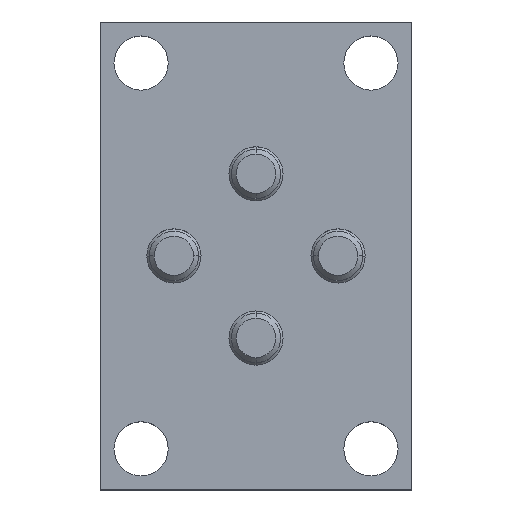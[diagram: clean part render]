
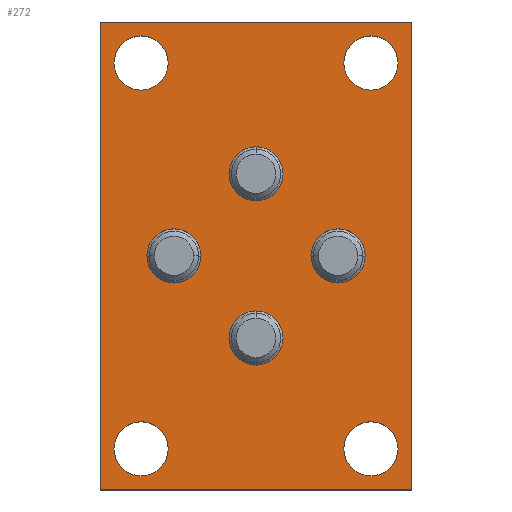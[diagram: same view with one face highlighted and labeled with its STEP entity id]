
A CAD part, top view. The second image highlights one B-rep face of the part: STEP entity #272.
In plain terms, the highlighted planar face has unit normal (0, 0, 1).
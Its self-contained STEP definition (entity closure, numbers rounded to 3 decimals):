
#114=FACE_BOUND('',#496,.T.);
#115=FACE_BOUND('',#497,.T.);
#116=FACE_BOUND('',#498,.T.);
#117=FACE_BOUND('',#499,.T.);
#118=FACE_BOUND('',#500,.T.);
#119=FACE_BOUND('',#501,.T.);
#120=FACE_BOUND('',#502,.T.);
#121=FACE_BOUND('',#503,.T.);
#122=FACE_BOUND('',#504,.T.);
#180=CIRCLE('',#1587,3.3);
#182=CIRCLE('',#1590,3.3);
#184=CIRCLE('',#1593,3.3);
#186=CIRCLE('',#1596,3.3);
#188=CIRCLE('',#1599,3.3);
#190=CIRCLE('',#1602,3.3);
#192=CIRCLE('',#1605,3.3);
#194=CIRCLE('',#1608,3.3);
#196=CIRCLE('',#1611,3.3);
#198=CIRCLE('',#1614,3.3);
#200=CIRCLE('',#1617,3.3);
#202=CIRCLE('',#1620,3.3);
#211=CIRCLE('',#1635,3.3);
#212=CIRCLE('',#1636,3.3);
#213=CIRCLE('',#1637,3.3);
#214=CIRCLE('',#1638,3.3);
#272=ADVANCED_FACE('',(#114,#115,#116,#117,#118,#119,#120,#121,#122),#346,
 .T.);
#346=PLANE('',#1639);
#496=EDGE_LOOP('',(#677,#678,#679,#680));
#497=EDGE_LOOP('',(#681,#682));
#498=EDGE_LOOP('',(#683,#684));
#499=EDGE_LOOP('',(#685,#686));
#500=EDGE_LOOP('',(#687,#688));
#501=EDGE_LOOP('',(#689,#690));
#502=EDGE_LOOP('',(#691,#692));
#503=EDGE_LOOP('',(#693,#694));
#504=EDGE_LOOP('',(#695,#696));
#677=ORIENTED_EDGE('',*,*,#1114,.T.);
#678=ORIENTED_EDGE('',*,*,#1118,.T.);
#679=ORIENTED_EDGE('',*,*,#1121,.T.);
#680=ORIENTED_EDGE('',*,*,#1124,.T.);
#681=ORIENTED_EDGE('',*,*,#1173,.F.);
#682=ORIENTED_EDGE('',*,*,#1174,.F.);
#683=ORIENTED_EDGE('',*,*,#1175,.F.);
#684=ORIENTED_EDGE('',*,*,#1176,.F.);
#685=ORIENTED_EDGE('',*,*,#1128,.T.);
#686=ORIENTED_EDGE('',*,*,#1130,.T.);
#687=ORIENTED_EDGE('',*,*,#1134,.T.);
#688=ORIENTED_EDGE('',*,*,#1136,.T.);
#689=ORIENTED_EDGE('',*,*,#1140,.T.);
#690=ORIENTED_EDGE('',*,*,#1142,.T.);
#691=ORIENTED_EDGE('',*,*,#1146,.T.);
#692=ORIENTED_EDGE('',*,*,#1148,.T.);
#693=ORIENTED_EDGE('',*,*,#1151,.T.);
#694=ORIENTED_EDGE('',*,*,#1154,.T.);
#695=ORIENTED_EDGE('',*,*,#1157,.T.);
#696=ORIENTED_EDGE('',*,*,#1160,.T.);
#986=VERTEX_POINT('',#2205);
#987=VERTEX_POINT('',#2207);
#990=VERTEX_POINT('',#2214);
#992=VERTEX_POINT('',#2220);
#994=VERTEX_POINT('',#2229);
#996=VERTEX_POINT('',#2233);
#998=VERTEX_POINT('',#2241);
#1000=VERTEX_POINT('',#2245);
#1002=VERTEX_POINT('',#2253);
#1004=VERTEX_POINT('',#2257);
#1006=VERTEX_POINT('',#2265);
#1008=VERTEX_POINT('',#2269);
#1011=VERTEX_POINT('',#2279);
#1012=VERTEX_POINT('',#2281);
#1015=VERTEX_POINT('',#2291);
#1016=VERTEX_POINT('',#2293);
#1025=VERTEX_POINT('',#2325);
#1026=VERTEX_POINT('',#2326);
#1027=VERTEX_POINT('',#2329);
#1028=VERTEX_POINT('',#2330);
#1114=EDGE_CURVE('',#987,#986,#1318,.T.);
#1118=EDGE_CURVE('',#986,#990,#1322,.T.);
#1121=EDGE_CURVE('',#990,#992,#1325,.T.);
#1124=EDGE_CURVE('',#992,#987,#1328,.T.);
#1128=EDGE_CURVE('',#994,#996,#180,.T.);
#1130=EDGE_CURVE('',#996,#994,#182,.T.);
#1134=EDGE_CURVE('',#998,#1000,#184,.T.);
#1136=EDGE_CURVE('',#1000,#998,#186,.T.);
#1140=EDGE_CURVE('',#1002,#1004,#188,.T.);
#1142=EDGE_CURVE('',#1004,#1002,#190,.T.);
#1146=EDGE_CURVE('',#1006,#1008,#192,.T.);
#1148=EDGE_CURVE('',#1008,#1006,#194,.T.);
#1151=EDGE_CURVE('',#1012,#1011,#196,.T.);
#1154=EDGE_CURVE('',#1011,#1012,#198,.T.);
#1157=EDGE_CURVE('',#1016,#1015,#200,.T.);
#1160=EDGE_CURVE('',#1015,#1016,#202,.T.);
#1173=EDGE_CURVE('',#1025,#1026,#211,.T.);
#1174=EDGE_CURVE('',#1026,#1025,#212,.T.);
#1175=EDGE_CURVE('',#1027,#1028,#213,.T.);
#1176=EDGE_CURVE('',#1028,#1027,#214,.T.);
#1318=LINE('',#2206,#1450);
#1322=LINE('',#2215,#1454);
#1325=LINE('',#2221,#1457);
#1328=LINE('',#2225,#1460);
#1450=VECTOR('',#1747,1.);
#1454=VECTOR('',#1753,1.);
#1457=VECTOR('',#1758,1.);
#1460=VECTOR('',#1763,1.);
#1587=AXIS2_PLACEMENT_3D('',#2234,#1770,#1771);
#1590=AXIS2_PLACEMENT_3D('',#2237,#1776,#1777);
#1593=AXIS2_PLACEMENT_3D('',#2246,#1784,#1785);
#1596=AXIS2_PLACEMENT_3D('',#2249,#1790,#1791);
#1599=AXIS2_PLACEMENT_3D('',#2258,#1798,#1799);
#1602=AXIS2_PLACEMENT_3D('',#2261,#1804,#1805);
#1605=AXIS2_PLACEMENT_3D('',#2270,#1812,#1813);
#1608=AXIS2_PLACEMENT_3D('',#2273,#1818,#1819);
#1611=AXIS2_PLACEMENT_3D('',#2280,#1825,#1826);
#1614=AXIS2_PLACEMENT_3D('',#2285,#1832,#1833);
#1617=AXIS2_PLACEMENT_3D('',#2292,#1839,#1840);
#1620=AXIS2_PLACEMENT_3D('',#2297,#1846,#1847);
#1635=AXIS2_PLACEMENT_3D('',#2324,#1880,#1881);
#1636=AXIS2_PLACEMENT_3D('',#2327,#1882,#1883);
#1637=AXIS2_PLACEMENT_3D('',#2328,#1884,#1885);
#1638=AXIS2_PLACEMENT_3D('',#2331,#1886,#1887);
#1639=AXIS2_PLACEMENT_3D('',#2332,#1888,#1889);
#1747=DIRECTION('',(-1.,0.,0.));
#1753=DIRECTION('',(0.,-1.,0.));
#1758=DIRECTION('',(1.,0.,0.));
#1763=DIRECTION('',(0.,1.,0.));
#1770=DIRECTION('',(0.,0.,-1.));
#1771=DIRECTION('',(-1.,0.,0.));
#1776=DIRECTION('',(0.,0.,-1.));
#1777=DIRECTION('',(1.,0.,0.));
#1784=DIRECTION('',(0.,0.,-1.));
#1785=DIRECTION('',(-1.,0.,0.));
#1790=DIRECTION('',(0.,0.,-1.));
#1791=DIRECTION('',(1.,0.,0.));
#1798=DIRECTION('',(0.,0.,-1.));
#1799=DIRECTION('',(-1.,0.,0.));
#1804=DIRECTION('',(0.,0.,-1.));
#1805=DIRECTION('',(1.,0.,0.));
#1812=DIRECTION('',(0.,0.,-1.));
#1813=DIRECTION('',(-1.,0.,0.));
#1818=DIRECTION('',(0.,0.,-1.));
#1819=DIRECTION('',(1.,0.,0.));
#1825=DIRECTION('',(0.,0.,-1.));
#1826=DIRECTION('',(-1.,0.,0.));
#1832=DIRECTION('',(0.,0.,-1.));
#1833=DIRECTION('',(1.,0.,0.));
#1839=DIRECTION('',(0.,0.,-1.));
#1840=DIRECTION('',(-1.,0.,0.));
#1846=DIRECTION('',(0.,0.,-1.));
#1847=DIRECTION('',(1.,0.,0.));
#1880=DIRECTION('',(0.,0.,1.));
#1881=DIRECTION('',(-1.,0.,0.));
#1882=DIRECTION('',(0.,0.,1.));
#1883=DIRECTION('',(1.,0.,0.));
#1884=DIRECTION('',(0.,0.,1.));
#1885=DIRECTION('',(-1.,0.,0.));
#1886=DIRECTION('',(0.,0.,1.));
#1887=DIRECTION('',(1.,0.,0.));
#1888=DIRECTION('',(0.,0.,1.));
#1889=DIRECTION('',(-1.,0.,0.));
#2205=CARTESIAN_POINT('',(-19.,28.5,9.));
#2206=CARTESIAN_POINT('',(-19.,28.5,9.));
#2207=CARTESIAN_POINT('',(19.,28.5,9.));
#2214=CARTESIAN_POINT('',(-19.,-28.5,9.));
#2215=CARTESIAN_POINT('',(-19.,28.5,9.));
#2220=CARTESIAN_POINT('',(19.,-28.5,9.));
#2221=CARTESIAN_POINT('',(-19.,-28.5,9.));
#2225=CARTESIAN_POINT('',(19.,28.5,9.));
#2229=CARTESIAN_POINT('',(14.,26.8,9.));
#2233=CARTESIAN_POINT('',(14.,20.2,9.));
#2234=CARTESIAN_POINT('',(14.,23.5,9.));
#2237=CARTESIAN_POINT('',(14.,23.5,9.));
#2241=CARTESIAN_POINT('',(-14.,26.8,9.));
#2245=CARTESIAN_POINT('',(-14.,20.2,9.));
#2246=CARTESIAN_POINT('',(-14.,23.5,9.));
#2249=CARTESIAN_POINT('',(-14.,23.5,9.));
#2253=CARTESIAN_POINT('',(14.,-20.2,9.));
#2257=CARTESIAN_POINT('',(14.,-26.8,9.));
#2258=CARTESIAN_POINT('',(14.,-23.5,9.));
#2261=CARTESIAN_POINT('',(14.,-23.5,9.));
#2265=CARTESIAN_POINT('',(-14.,-20.2,9.));
#2269=CARTESIAN_POINT('',(-14.,-26.8,9.));
#2270=CARTESIAN_POINT('',(-14.,-23.5,9.));
#2273=CARTESIAN_POINT('',(-14.,-23.5,9.));
#2279=CARTESIAN_POINT('',(0.,6.7,9.));
#2280=CARTESIAN_POINT('',(0.,10.,9.));
#2281=CARTESIAN_POINT('',(0.,13.3,9.));
#2285=CARTESIAN_POINT('',(0.,10.,9.));
#2291=CARTESIAN_POINT('',(0.,-13.3,9.));
#2292=CARTESIAN_POINT('',(0.,-10.,9.));
#2293=CARTESIAN_POINT('',(0.,-6.7,9.));
#2297=CARTESIAN_POINT('',(0.,-10.,9.));
#2324=CARTESIAN_POINT('',(10.,0.,9.));
#2325=CARTESIAN_POINT('',(10.,-3.3,9.));
#2326=CARTESIAN_POINT('',(10.,3.3,9.));
#2327=CARTESIAN_POINT('',(10.,0.,9.));
#2328=CARTESIAN_POINT('',(-10.,0.,9.));
#2329=CARTESIAN_POINT('',(-10.,-3.3,9.));
#2330=CARTESIAN_POINT('',(-10.,3.3,9.));
#2331=CARTESIAN_POINT('',(-10.,0.,9.));
#2332=CARTESIAN_POINT('',(19.,28.5,9.));
